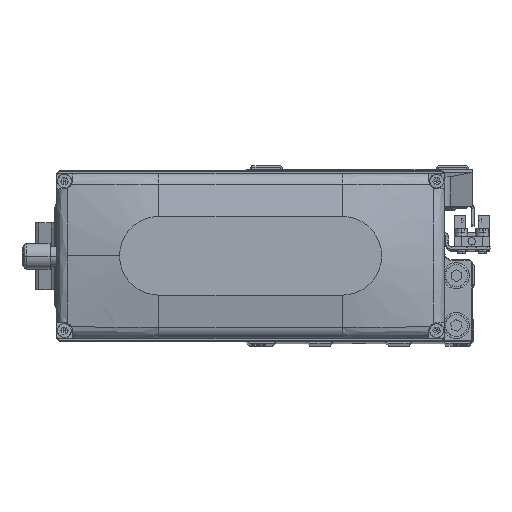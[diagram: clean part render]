
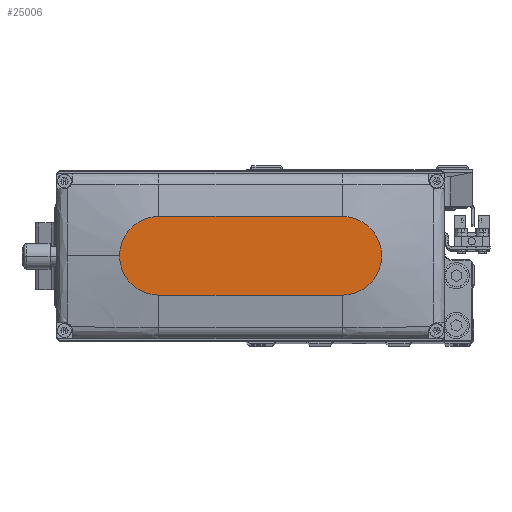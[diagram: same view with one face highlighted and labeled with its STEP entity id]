
A CAD part, top view. The second image highlights one B-rep face of the part: STEP entity #25006.
In plain terms, the highlighted planar face has unit normal (0, 0, 1).
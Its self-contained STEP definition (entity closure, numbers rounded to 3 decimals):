
#28 = AXIS2_PLACEMENT_3D ( 'NONE', #2855, #17449, #32081 ) ;
#1893 = AXIS2_PLACEMENT_3D ( 'NONE', #12190, #26809, #41446 ) ;
#1998 = DIRECTION ( 'NONE',  ( 0., 0., 1. ) ) ;
#2855 = CARTESIAN_POINT ( 'NONE',  ( 35., 0., 35. ) ) ;
#4803 = ORIENTED_EDGE ( 'NONE', *, *, #14269, .T. ) ;
#7286 = CIRCLE ( 'NONE', #34084, 15. ) ;
#7874 = DIRECTION ( 'NONE',  ( -1., 0., 0. ) ) ;
#8453 = CARTESIAN_POINT ( 'NONE',  ( 35., 15., 35. ) ) ;
#9753 = CARTESIAN_POINT ( 'NONE',  ( 35., 0., 35. ) ) ;
#9779 = CIRCLE ( 'NONE', #42702, 15. ) ;
#11260 = VERTEX_POINT ( 'NONE', #8453 ) ;
#11580 = ORIENTED_EDGE ( 'NONE', *, *, #24049, .T. ) ;
#12190 = CARTESIAN_POINT ( 'NONE',  ( 0., 0., 35. ) ) ;
#14269 = EDGE_CURVE ( 'NONE', #20697, #41338, #20674, .T. ) ;
#14841 = VERTEX_POINT ( 'NONE', #40819 ) ;
#15606 = EDGE_LOOP ( 'NONE', ( #39916, #30644, #32016, #4803, #11580 ) ) ;
#16328 = LINE ( 'NONE', #30961, #25288 ) ;
#16584 = DIRECTION ( 'NONE',  ( 1., 0., 0. ) ) ;
#17449 = DIRECTION ( 'NONE',  ( 0., 0., 1. ) ) ;
#20674 = CIRCLE ( 'NONE', #28, 15. ) ;
#20697 = VERTEX_POINT ( 'NONE', #42364 ) ;
#23885 = VECTOR ( 'NONE', #7874, 1000. ) ;
#24049 = EDGE_CURVE ( 'NONE', #41338, #11260, #7286, .T. ) ;
#24378 = DIRECTION ( 'NONE',  ( 0., 0., 1. ) ) ;
#25006 = ADVANCED_FACE ( 'NONE', ( #30403 ), #45024, .T. ) ;
#25288 = VECTOR ( 'NONE', #45573, 1000. ) ;
#26095 = LINE ( 'NONE', #40720, #23885 ) ;
#26809 = DIRECTION ( 'NONE',  ( 0., 0., 1. ) ) ;
#29680 = EDGE_CURVE ( 'NONE', #14841, #20697, #16328, .T. ) ;
#29875 = CARTESIAN_POINT ( 'NONE',  ( -35., 15., 35. ) ) ;
#30403 = FACE_OUTER_BOUND ( 'NONE', #15606, .T. ) ;
#30644 = ORIENTED_EDGE ( 'NONE', *, *, #38205, .T. ) ;
#30961 = CARTESIAN_POINT ( 'NONE',  ( -35., -15., 35. ) ) ;
#32016 = ORIENTED_EDGE ( 'NONE', *, *, #29680, .T. ) ;
#32081 = DIRECTION ( 'NONE',  ( 1., 0., 0. ) ) ;
#34084 = AXIS2_PLACEMENT_3D ( 'NONE', #9753, #24378, #39012 ) ;
#34831 = CARTESIAN_POINT ( 'NONE',  ( -35., 0., 35. ) ) ;
#38205 = EDGE_CURVE ( 'NONE', #45351, #14841, #9779, .T. ) ;
#39012 = DIRECTION ( 'NONE',  ( 1., 0., 0. ) ) ;
#39916 = ORIENTED_EDGE ( 'NONE', *, *, #42359, .T. ) ;
#40720 = CARTESIAN_POINT ( 'NONE',  ( -35., 15., 35. ) ) ;
#40819 = CARTESIAN_POINT ( 'NONE',  ( -35., -15., 35. ) ) ;
#41338 = VERTEX_POINT ( 'NONE', #43152 ) ;
#41446 = DIRECTION ( 'NONE',  ( 1., 0., 0. ) ) ;
#42359 = EDGE_CURVE ( 'NONE', #11260, #45351, #26095, .T. ) ;
#42364 = CARTESIAN_POINT ( 'NONE',  ( 35., -15., 35. ) ) ;
#42702 = AXIS2_PLACEMENT_3D ( 'NONE', #34831, #1998, #16584 ) ;
#43152 = CARTESIAN_POINT ( 'NONE',  ( 50., 0., 35. ) ) ;
#45024 = PLANE ( 'NONE',  #1893 ) ;
#45351 = VERTEX_POINT ( 'NONE', #29875 ) ;
#45573 = DIRECTION ( 'NONE',  ( 1., 0., 0. ) ) ;
